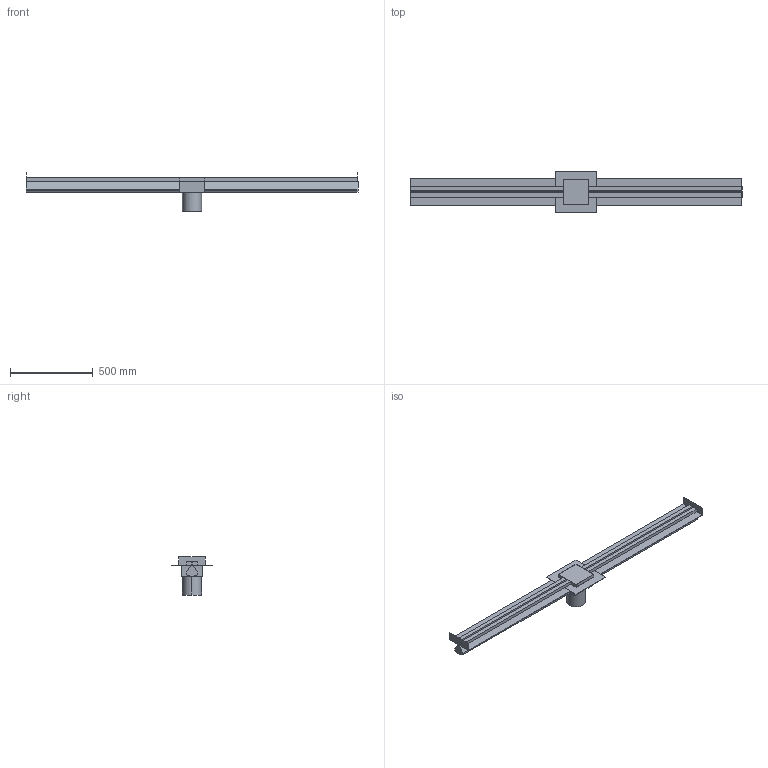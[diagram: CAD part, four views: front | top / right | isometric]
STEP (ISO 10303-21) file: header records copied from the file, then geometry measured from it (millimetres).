
FILE_DESCRIPTION(/* description */ (''),/* implementation_level */ '2;1');
FILE_NAME(/* name */ 'E:\Workspace\resitec\Packs\Kategorie\Entwässerungsrinne\STP\RS772K.65.150Schlitzrinne mit Rand 25mm AuslaufkastenM151mm-2xZargeL+R-2xKRV+H.s.ipt.stp',/* time_stamp */ '2020-10-04T20:57:15+02:00',/* author */ ('ndmes'),/* organization */ (''),/* preprocessor_version */ 'ST-DEVELOPER v18.1',/* originating_system */ 'Autodesk Inventor 2021',/* authorisation */ '');
FILE_SCHEMA (('AUTOMOTIVE_DESIGN { 1 0 10303 214 3 1 1 }'));
Length unit declared in the file: millimetre
Products named in the file (1): RS772K.65.150Schlitzrinne mit Rand 25mm AuslaufkastenM151mm-2xZargeL+
R-2xKRV+H.s
Bounding box: 2000 x 251 x 230 mm (x, y, z)
Volume: 11426650.6 mm3; surface area: 1675377.9 mm2
Topology: 13 solids, 13 shells, 101 faces, 225 edges, 150 vertices
Faces by surface type: plane 99, cylinder 2
Entity records: 2780 total; most frequent: CARTESIAN_POINT 477, ORIENTED_EDGE 450, DIRECTION 433, EDGE_CURVE 225, LINE 221, VECTOR 221, VERTEX_POINT 150, AXIS2_PLACEMENT_3D 106
